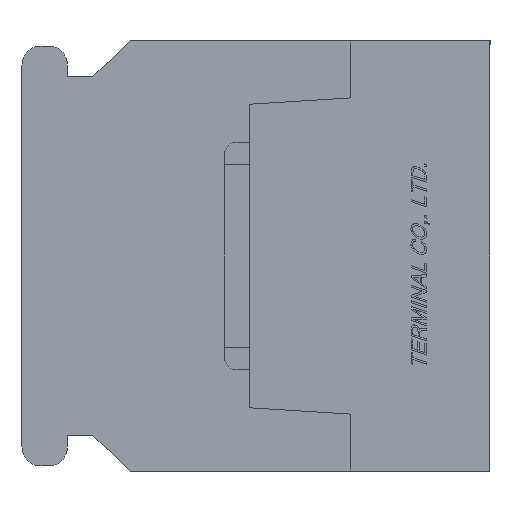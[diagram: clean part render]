
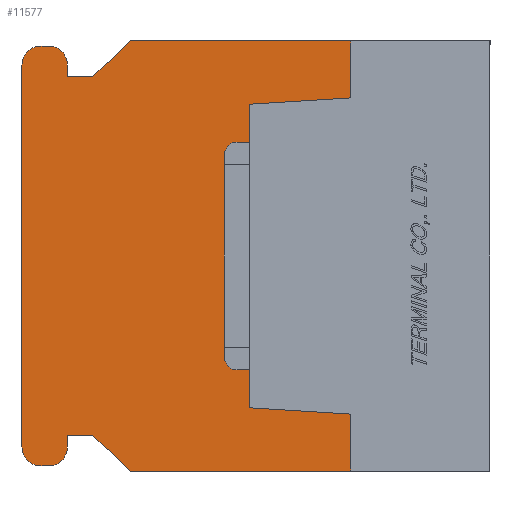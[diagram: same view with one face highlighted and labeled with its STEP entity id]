
A CAD part, left-side view. The second image highlights one B-rep face of the part: STEP entity #11577.
In plain terms, the highlighted planar face has unit normal (-1, 0, 0).
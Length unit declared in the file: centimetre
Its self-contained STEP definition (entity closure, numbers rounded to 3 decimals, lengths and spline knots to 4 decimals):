
#1330=VECTOR('',#13955,1.);
#1333=VECTOR('',#13959,1.);
#1335=VECTOR('',#13962,1.);
#1337=VECTOR('',#13965,1.);
#1339=VECTOR('',#13968,1.);
#1391=VECTOR('',#14061,1.);
#1393=VECTOR('',#14064,1.);
#1395=VECTOR('',#14067,1.);
#1397=VECTOR('',#14070,1.);
#1400=VECTOR('',#14078,1.);
#1403=VECTOR('',#14086,1.);
#1406=VECTOR('',#14094,1.);
#1409=VECTOR('',#14102,1.);
#1411=VECTOR('',#14105,1.);
#1413=VECTOR('',#14108,1.);
#1414=VECTOR('',#14110,1.);
#2596=LINE('',#17395,#1330);
#2599=LINE('',#17401,#1333);
#2601=LINE('',#17405,#1335);
#2603=LINE('',#17409,#1337);
#2605=LINE('',#17413,#1339);
#2657=LINE('',#17533,#1391);
#2659=LINE('',#17537,#1393);
#2661=LINE('',#17541,#1395);
#2663=LINE('',#17545,#1397);
#2666=LINE('',#17553,#1400);
#2669=LINE('',#17561,#1403);
#2672=LINE('',#17569,#1406);
#2675=LINE('',#17577,#1409);
#2677=LINE('',#17581,#1411);
#2679=LINE('',#17585,#1413);
#2680=LINE('',#17587,#1414);
#3384=PLANE('',#12324);
#4244=VERTEX_POINT('',#17394);
#4245=VERTEX_POINT('',#17396);
#4246=VERTEX_POINT('',#17400);
#4247=VERTEX_POINT('',#17404);
#4248=VERTEX_POINT('',#17408);
#4249=VERTEX_POINT('',#17412);
#4286=VERTEX_POINT('',#17532);
#4287=VERTEX_POINT('',#17536);
#4288=VERTEX_POINT('',#17540);
#4289=VERTEX_POINT('',#17544);
#4290=VERTEX_POINT('',#17548);
#4291=VERTEX_POINT('',#17552);
#4292=VERTEX_POINT('',#17556);
#4293=VERTEX_POINT('',#17560);
#4294=VERTEX_POINT('',#17564);
#4295=VERTEX_POINT('',#17568);
#4296=VERTEX_POINT('',#17572);
#4297=VERTEX_POINT('',#17576);
#4298=VERTEX_POINT('',#17580);
#4299=VERTEX_POINT('',#17584);
#4759=CIRCLE('',#12310,0.075);
#4760=CIRCLE('',#12313,0.075);
#4761=CIRCLE('',#12316,0.075);
#4762=CIRCLE('',#12319,0.075);
#5841=EDGE_CURVE('',#4245,#4244,#2596,.T.);
#5844=EDGE_CURVE('',#4244,#4246,#2599,.T.);
#5846=EDGE_CURVE('',#4246,#4247,#2601,.T.);
#5848=EDGE_CURVE('',#4247,#4248,#2603,.T.);
#5850=EDGE_CURVE('',#4248,#4249,#2605,.T.);
#5910=EDGE_CURVE('',#4286,#4249,#2657,.T.);
#5912=EDGE_CURVE('',#4287,#4286,#2659,.T.);
#5914=EDGE_CURVE('',#4288,#4287,#2661,.T.);
#5916=EDGE_CURVE('',#4289,#4288,#2663,.T.);
#5918=EDGE_CURVE('',#4290,#4289,#4759,.T.);
#5920=EDGE_CURVE('',#4291,#4290,#2666,.T.);
#5922=EDGE_CURVE('',#4292,#4291,#4760,.T.);
#5924=EDGE_CURVE('',#4293,#4292,#2669,.T.);
#5926=EDGE_CURVE('',#4294,#4293,#4761,.T.);
#5928=EDGE_CURVE('',#4295,#4294,#2672,.T.);
#5930=EDGE_CURVE('',#4296,#4295,#4762,.T.);
#5932=EDGE_CURVE('',#4297,#4296,#2675,.T.);
#5934=EDGE_CURVE('',#4298,#4297,#2677,.T.);
#5936=EDGE_CURVE('',#4299,#4298,#2679,.T.);
#5937=EDGE_CURVE('',#4245,#4299,#2680,.T.);
#8757=ORIENTED_EDGE('',*,*,#5850,.T.);
#8758=ORIENTED_EDGE('',*,*,#5910,.F.);
#8759=ORIENTED_EDGE('',*,*,#5912,.F.);
#8760=ORIENTED_EDGE('',*,*,#5914,.F.);
#8761=ORIENTED_EDGE('',*,*,#5916,.F.);
#8762=ORIENTED_EDGE('',*,*,#5918,.F.);
#8763=ORIENTED_EDGE('',*,*,#5920,.F.);
#8764=ORIENTED_EDGE('',*,*,#5922,.F.);
#8765=ORIENTED_EDGE('',*,*,#5924,.F.);
#8766=ORIENTED_EDGE('',*,*,#5926,.F.);
#8767=ORIENTED_EDGE('',*,*,#5928,.F.);
#8768=ORIENTED_EDGE('',*,*,#5930,.F.);
#8769=ORIENTED_EDGE('',*,*,#5932,.F.);
#8770=ORIENTED_EDGE('',*,*,#5934,.F.);
#8771=ORIENTED_EDGE('',*,*,#5936,.F.);
#8772=ORIENTED_EDGE('',*,*,#5937,.F.);
#8773=ORIENTED_EDGE('',*,*,#5841,.T.);
#8774=ORIENTED_EDGE('',*,*,#5844,.T.);
#8775=ORIENTED_EDGE('',*,*,#5846,.T.);
#8776=ORIENTED_EDGE('',*,*,#5848,.T.);
#10245=EDGE_LOOP('',(#8757,#8758,#8759,#8760,#8761,#8762,#8763,#8764,#8765,
#8766,#8767,#8768,#8769,#8770,#8771,#8772,#8773,#8774,#8775,#8776));
#10939=FACE_BOUND('',#10245,.T.);
#11577=ADVANCED_FACE('',(#10939),#3384,.F.);
#12310=AXIS2_PLACEMENT_3D('',#17549,#14074,#14075);
#12313=AXIS2_PLACEMENT_3D('',#17557,#14082,#14083);
#12316=AXIS2_PLACEMENT_3D('',#17565,#14090,#14091);
#12319=AXIS2_PLACEMENT_3D('',#17573,#14098,#14099);
#12324=AXIS2_PLACEMENT_3D('',#17588,#14111,$);
#13955=DIRECTION('',(0.,0.,1.));
#13959=DIRECTION('',(0.,0.998,0.062));
#13962=DIRECTION('',(0.,0.,1.));
#13965=DIRECTION('',(0.,-0.998,0.062));
#13968=DIRECTION('',(0.,0.,1.));
#14061=DIRECTION('',(0.,-1.,0.));
#14064=DIRECTION('',(0.,-0.731,0.682));
#14067=DIRECTION('',(0.,-1.,0.));
#14070=DIRECTION('',(0.,0.,-1.));
#14074=DIRECTION('',(1.,0.,0.));
#14075=DIRECTION('',(0.,0.,-0.075));
#14078=DIRECTION('',(0.,-1.,0.));
#14082=DIRECTION('',(1.,0.,0.));
#14083=DIRECTION('',(0.,0.,-0.075));
#14086=DIRECTION('',(0.,0.,1.));
#14090=DIRECTION('',(1.,0.,0.));
#14091=DIRECTION('',(0.,0.,-0.075));
#14094=DIRECTION('',(0.,1.,0.));
#14098=DIRECTION('',(1.,0.,0.));
#14099=DIRECTION('',(0.,0.,-0.075));
#14102=DIRECTION('',(0.,0.,-1.));
#14105=DIRECTION('',(0.,1.,0.));
#14108=DIRECTION('',(0.,0.731,0.682));
#14110=DIRECTION('',(0.,1.,0.));
#14111=DIRECTION('',(1.,0.,0.));
#17394=CARTESIAN_POINT('',(0.,0.55,-0.625));
#17395=CARTESIAN_POINT('',(0.,0.55,-0.3688));
#17396=CARTESIAN_POINT('',(0.,0.55,-0.85));
#17400=CARTESIAN_POINT('',(0.,0.95,-0.6));
#17401=CARTESIAN_POINT('',(0.,0.8629,-0.6054));
#17404=CARTESIAN_POINT('',(0.,0.95,0.6));
#17405=CARTESIAN_POINT('',(0.,0.95,0.));
#17408=CARTESIAN_POINT('',(0.,0.55,0.625));
#17409=CARTESIAN_POINT('',(0.,0.8629,0.6054));
#17412=CARTESIAN_POINT('',(0.,0.55,0.85));
#17413=CARTESIAN_POINT('',(0.,0.55,0.3687));
#17532=CARTESIAN_POINT('',(0.,1.42,0.85));
#17533=CARTESIAN_POINT('',(0.,1.42,0.85));
#17536=CARTESIAN_POINT('',(0.,1.57,0.71));
#17537=CARTESIAN_POINT('',(0.,1.57,0.71));
#17540=CARTESIAN_POINT('',(0.,1.67,0.71));
#17541=CARTESIAN_POINT('',(0.,1.67,0.71));
#17544=CARTESIAN_POINT('',(0.,1.67,0.755));
#17545=CARTESIAN_POINT('',(0.,1.67,0.755));
#17548=CARTESIAN_POINT('',(0.,1.745,0.83));
#17549=CARTESIAN_POINT('',(0.,1.745,0.755));
#17552=CARTESIAN_POINT('',(0.,1.775,0.83));
#17553=CARTESIAN_POINT('',(0.,1.775,0.83));
#17556=CARTESIAN_POINT('',(0.,1.85,0.755));
#17557=CARTESIAN_POINT('',(0.,1.775,0.755));
#17560=CARTESIAN_POINT('',(0.,1.85,-0.755));
#17561=CARTESIAN_POINT('',(0.,1.85,-0.755));
#17564=CARTESIAN_POINT('',(0.,1.775,-0.83));
#17565=CARTESIAN_POINT('',(0.,1.775,-0.755));
#17568=CARTESIAN_POINT('',(0.,1.745,-0.83));
#17569=CARTESIAN_POINT('',(0.,1.745,-0.83));
#17572=CARTESIAN_POINT('',(0.,1.67,-0.755));
#17573=CARTESIAN_POINT('',(0.,1.745,-0.755));
#17576=CARTESIAN_POINT('',(0.,1.67,-0.71));
#17577=CARTESIAN_POINT('',(0.,1.67,-0.71));
#17580=CARTESIAN_POINT('',(0.,1.57,-0.71));
#17581=CARTESIAN_POINT('',(0.,1.57,-0.71));
#17584=CARTESIAN_POINT('',(0.,1.42,-0.85));
#17585=CARTESIAN_POINT('',(0.,1.42,-0.85));
#17587=CARTESIAN_POINT('',(0.,0.,-0.85));
#17588=CARTESIAN_POINT('',(0.,0.9383,0.));
